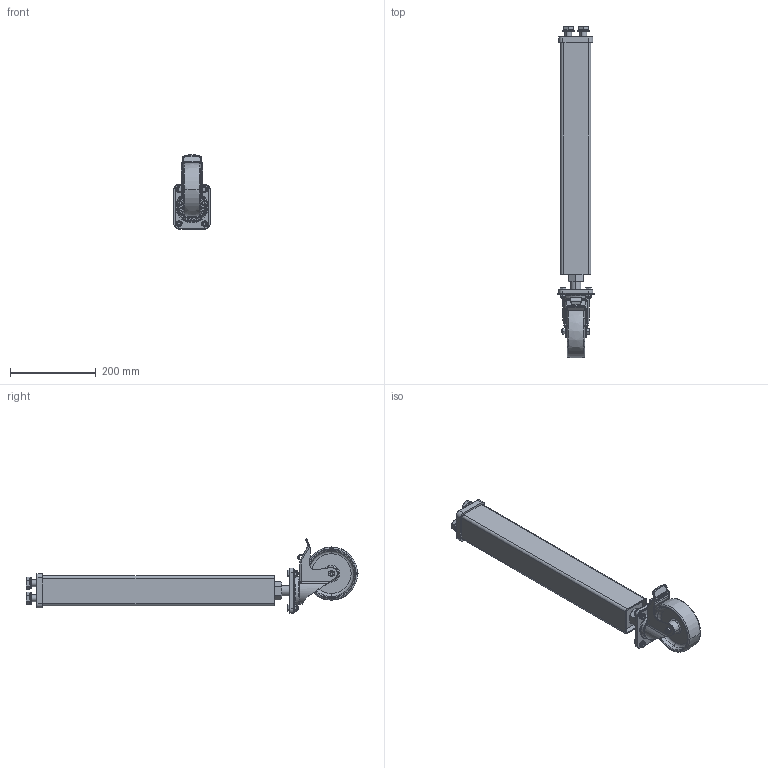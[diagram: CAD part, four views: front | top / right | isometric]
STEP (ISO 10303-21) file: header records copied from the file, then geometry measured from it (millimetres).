
FILE_DESCRIPTION (( 'STEP AP203' ), '1' );
FILE_NAME ('160876.STEP', '2020-07-10T08:12:04', ( '' ), ( '' ), 'SwSTEP 2.0', 'SolidWorks 2019', '' );
FILE_SCHEMA (( 'CONFIG_CONTROL_DESIGN' ));
Length unit declared in the file: millimetre
Products named in the file (18): Plastik gelenk^Rolle D125; 160881_Platte; Aufnahme unten^160876.X.T1 Fuß mit Lenkrolle und Feststellbremse 750 Schweißteil; Rolle D125; 160876.X.T1 Fuß mit Lenkrolle und Feststellbremse 750 Schweißteil_Gesamt; ISO 4017 - M8 x 20 - verzinkt_1; ISO 8673 M24x1,5-verzinkt_0; 00001105_Gewindespindel M24x1,5_oh gewinde; 160876; Federring DIN 127 B - 16 - verzinkt; 160876.X Fuß mit Lenkrolle und Feststellbremse 750 Produktionsteil; Platte oben^160876.X.T1 Fuß mit Lenkrolle und Feststellbremse 750 Schweißteil_Fertigung; Halterung^Rolle D125; 160881 Verstelleinheit Rolle; Rolle 125^Rolle D125; ISO 10511-M8 - verzinkt_0; ISO 4017 - M16 x 50 - verzinkt_0; Hohlprofil 70x70x3^160876.X.T1 Fuß mit Lenkrolle und Feststellbremse 750 Schweißteil_fertigung
Assembly tree (25 placements, depth 4):
  160876
    160876.X Fuß mit Lenkrolle und Feststellbremse 750 Produktionsteil
      160876.X.T1 Fuß mit Lenkrolle und Feststellbremse 750 Schweißteil_Gesamt
        Hohlprofil 70x70x3^160876.X.T1 Fuß mit Lenkrolle und Feststellbremse 750 Schweißteil_fertigung
        Platte oben^160876.X.T1 Fuß mit Lenkrolle und Feststellbremse 750 Schweißteil_Fertigung
        Aufnahme unten^160876.X.T1 Fuß mit Lenkrolle und Feststellbremse 750 Schweißteil
      160881 Verstelleinheit Rolle
        00001105_Gewindespindel M24x1,5_oh gewinde
        160881_Platte
        ISO 8673 M24x1,5-verzinkt_0
      Federring DIN 127 B - 16 - verzinkt  x2
      ISO 4017 - M16 x 50 - verzinkt_0  x2
    Rolle D125
      Plastik gelenk^Rolle D125
      Rolle 125^Rolle D125
      Halterung^Rolle D125
    ISO 4017 - M8 x 20 - verzinkt_1  x4
    ISO 10511-M8 - verzinkt_0  x4
Bounding box: 85 x 775.38 x 173.66 mm (x, y, z)
Volume: 1093397.7 mm3; surface area: 481146.5 mm2
Topology: 25 solids, 25 shells, 1188 faces, 3417 edges, 2301 vertices
Faces by surface type: plane 434, cylinder 387, cone 204, bspline 113, torus 50
Entity records: 49922 total; most frequent: CARTESIAN_POINT 25359, ORIENTED_EDGE 5218, DIRECTION 4149, EDGE_CURVE 2609, VERTEX_POINT 1807, AXIS2_PLACEMENT_3D 1501, VECTOR 1147, LINE 1147
